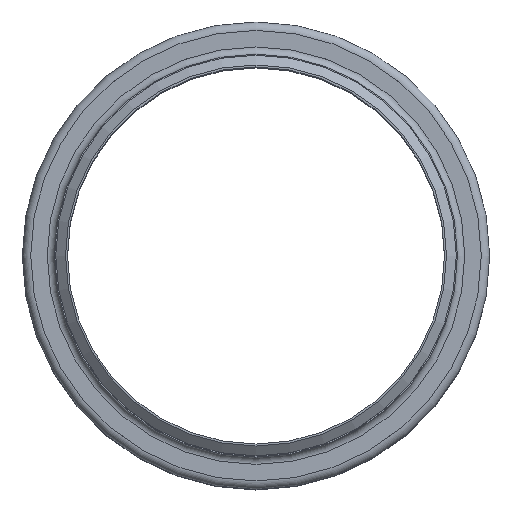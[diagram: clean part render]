
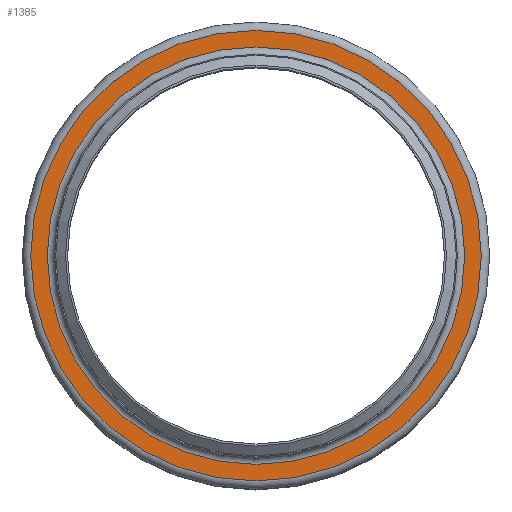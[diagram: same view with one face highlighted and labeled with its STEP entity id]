
A CAD part, top view. The second image highlights one B-rep face of the part: STEP entity #1385.
In plain terms, the highlighted planar face has unit normal (0, 0, 1).
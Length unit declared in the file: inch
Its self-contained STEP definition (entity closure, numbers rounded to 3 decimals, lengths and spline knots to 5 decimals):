
#155=FACE_BOUND('',#416,.T.);
#256=FACE_OUTER_BOUND('',#415,.T.);
#415=EDGE_LOOP('',(#1168));
#416=EDGE_LOOP('',(#1169));
#584=CIRCLE('',#1684,6.643);
#585=CIRCLE('',#1686,7.1695);
#703=VERTEX_POINT('',#2631);
#704=VERTEX_POINT('',#2635);
#862=EDGE_CURVE('',#703,#703,#584,.T.);
#863=EDGE_CURVE('',#704,#704,#585,.T.);
#1168=ORIENTED_EDGE('',*,*,#863,.F.);
#1169=ORIENTED_EDGE('',*,*,#862,.T.);
#1284=PLANE('',#1685);
#1385=ADVANCED_FACE('',(#256,#155),#1284,.T.);
#1684=AXIS2_PLACEMENT_3D('',#2633,#2197,#2198);
#1685=AXIS2_PLACEMENT_3D('',#2634,#2199,#2200);
#1686=AXIS2_PLACEMENT_3D('',#2636,#2201,#2202);
#2197=DIRECTION('center_axis',(0.,0.,-1.));
#2198=DIRECTION('ref_axis',(1.,0.,0.));
#2199=DIRECTION('center_axis',(0.,0.,1.));
#2200=DIRECTION('ref_axis',(1.,0.,0.));
#2201=DIRECTION('center_axis',(0.,0.,-1.));
#2202=DIRECTION('ref_axis',(1.,0.,0.));
#2631=CARTESIAN_POINT('',(6.643,0.,-0.232));
#2633=CARTESIAN_POINT('Origin',(0.,0.,-0.232));
#2634=CARTESIAN_POINT('Origin',(0.,7.1695,-0.232));
#2635=CARTESIAN_POINT('',(7.1695,0.,-0.232));
#2636=CARTESIAN_POINT('Origin',(0.,0.,-0.232));
